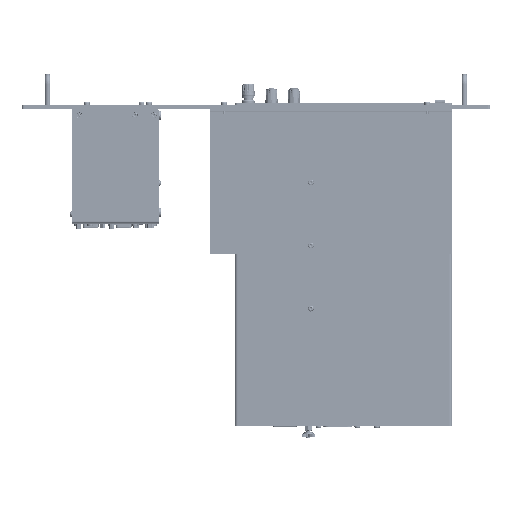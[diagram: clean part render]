
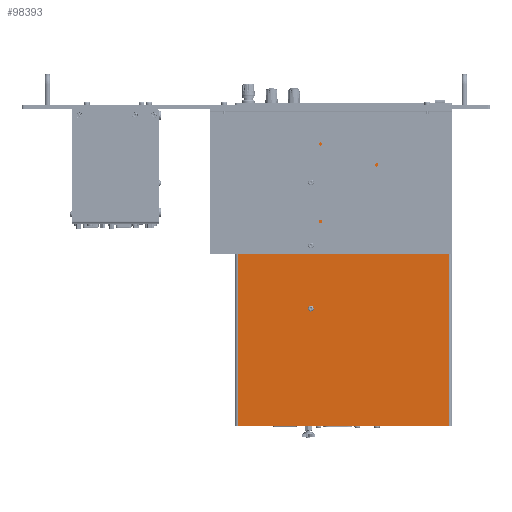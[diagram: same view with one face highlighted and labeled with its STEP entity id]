
A CAD part, front view. The second image highlights one B-rep face of the part: STEP entity #98393.
In plain terms, the highlighted planar face has unit normal (0, -1, 0).
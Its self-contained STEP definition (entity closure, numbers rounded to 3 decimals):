
#4164=LINE('',#146526,#11615);
#4172=LINE('',#146547,#11623);
#4189=LINE('',#146578,#11640);
#6964=LINE('',#170640,#14415);
#11615=VECTOR('',#116834,10.);
#11623=VECTOR('',#116850,10.);
#11640=VECTOR('',#116873,10.);
#14415=VECTOR('',#125610,10.);
#18614=FACE_BOUND('',#31774,.T.);
#18615=FACE_BOUND('',#31775,.T.);
#18616=FACE_BOUND('',#31776,.T.);
#20901=PLANE('',#106116);
#25726=FACE_OUTER_BOUND('',#31773,.T.);
#31773=EDGE_LOOP('',(#80019,#80020,#80021,#80022));
#31774=EDGE_LOOP('',(#80023,#80024));
#31775=EDGE_LOOP('',(#80025));
#31776=EDGE_LOOP('',(#80026,#80027));
#36699=CIRCLE('',#103251,3.);
#36717=CIRCLE('',#103291,2.8);
#36718=CIRCLE('',#103292,2.8);
#36723=CIRCLE('',#103298,2.8);
#36724=CIRCLE('',#103299,2.8);
#41900=VERTEX_POINT('',#146523);
#41901=VERTEX_POINT('',#146525);
#41909=VERTEX_POINT('',#146544);
#41910=VERTEX_POINT('',#146546);
#42054=VERTEX_POINT('',#146926);
#42088=VERTEX_POINT('',#147088);
#42089=VERTEX_POINT('',#147090);
#42092=VERTEX_POINT('',#147126);
#42093=VERTEX_POINT('',#147128);
#52038=EDGE_CURVE('',#41901,#41900,#4164,.T.);
#52048=EDGE_CURVE('',#41910,#41909,#4172,.T.);
#52066=EDGE_CURVE('',#41909,#41901,#4189,.T.);
#52246=EDGE_CURVE('',#42054,#42054,#36699,.T.);
#52302=EDGE_CURVE('',#42088,#42089,#36717,.T.);
#52303=EDGE_CURVE('',#42089,#42088,#36718,.T.);
#52308=EDGE_CURVE('',#42092,#42093,#36723,.T.);
#52309=EDGE_CURVE('',#42093,#42092,#36724,.T.);
#57141=EDGE_CURVE('',#41900,#41910,#6964,.T.);
#80019=ORIENTED_EDGE('',*,*,#57141,.T.);
#80020=ORIENTED_EDGE('',*,*,#52048,.T.);
#80021=ORIENTED_EDGE('',*,*,#52066,.T.);
#80022=ORIENTED_EDGE('',*,*,#52038,.T.);
#80023=ORIENTED_EDGE('',*,*,#52303,.F.);
#80024=ORIENTED_EDGE('',*,*,#52302,.F.);
#80025=ORIENTED_EDGE('',*,*,#52246,.T.);
#80026=ORIENTED_EDGE('',*,*,#52309,.F.);
#80027=ORIENTED_EDGE('',*,*,#52308,.F.);
#98393=ADVANCED_FACE('',(#25726,#18614,#18615,#18616),#20901,.F.);
#103251=AXIS2_PLACEMENT_3D('',#146927,#117204,#117205);
#103291=AXIS2_PLACEMENT_3D('',#147091,#117310,#117311);
#103292=AXIS2_PLACEMENT_3D('',#147092,#117312,#117313);
#103298=AXIS2_PLACEMENT_3D('',#147129,#117324,#117325);
#103299=AXIS2_PLACEMENT_3D('',#147130,#117326,#117327);
#106116=AXIS2_PLACEMENT_3D('',#170639,#125608,#125609);
#116834=DIRECTION('',(0.,0.,1.));
#116850=DIRECTION('',(0.,0.,-1.));
#116873=DIRECTION('',(1.,0.,0.));
#117204=DIRECTION('center_axis',(0.,1.,0.));
#117205=DIRECTION('ref_axis',(0.,0.,
-1.));
#117310=DIRECTION('center_axis',(0.,-1.,0.));
#117311=DIRECTION('ref_axis',(0.,0.,-1.));
#117312=DIRECTION('center_axis',(0.,-1.,0.));
#117313=DIRECTION('ref_axis',(0.,0.,-1.));
#117324=DIRECTION('center_axis',(0.,-1.,0.));
#117325=DIRECTION('ref_axis',(0.,0.,-1.));
#117326=DIRECTION('center_axis',(0.,-1.,0.));
#117327=DIRECTION('ref_axis',(0.,0.,-1.));
#125608=DIRECTION('center_axis',(0.,1.,0.));
#125609=DIRECTION('ref_axis',(0.,0.,
1.));
#125610=DIRECTION('',(-1.,0.,0.));
#146523=CARTESIAN_POINT('',(199.,-26.25,0.));
#146525=CARTESIAN_POINT('',(199.,-26.25,-327.75));
#146526=CARTESIAN_POINT('',(199.,-26.25,-244.5));
#146544=CARTESIAN_POINT('',(-19.,-26.25,-327.75));
#146546=CARTESIAN_POINT('',(-19.,-26.25,0.));
#146547=CARTESIAN_POINT('',(-19.,-26.25,-78.));
#146578=CARTESIAN_POINT('',(-22.,-26.25,-327.75));
#146926=CARTESIAN_POINT('',(56.5,-26.25,-203.25));
#146927=CARTESIAN_POINT('Origin',(56.5,-26.25,-206.25));
#147088=CARTESIAN_POINT('',(56.5,-26.25,-144.05));
#147090=CARTESIAN_POINT('',(56.5,-26.25,-138.45));
#147091=CARTESIAN_POINT('Origin',(56.5,-26.25,-141.25));
#147092=CARTESIAN_POINT('Origin',(56.5,-26.25,-141.25));
#147126=CARTESIAN_POINT('',(56.564,-26.25,-73.451));
#147128=CARTESIAN_POINT('',(56.436,-26.25,-79.049));
#147129=CARTESIAN_POINT('Origin',(56.5,-26.25,-76.25));
#147130=CARTESIAN_POINT('Origin',(56.5,-26.25,-76.25));
#170639=CARTESIAN_POINT('Origin',(90.,-26.25,-161.25));
#170640=CARTESIAN_POINT('',(45.,-26.25,0.));
